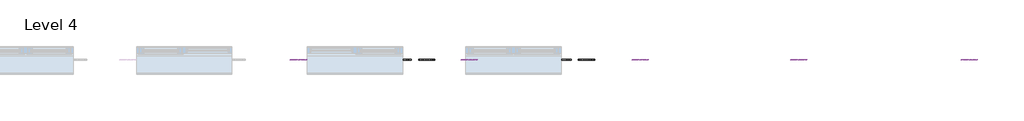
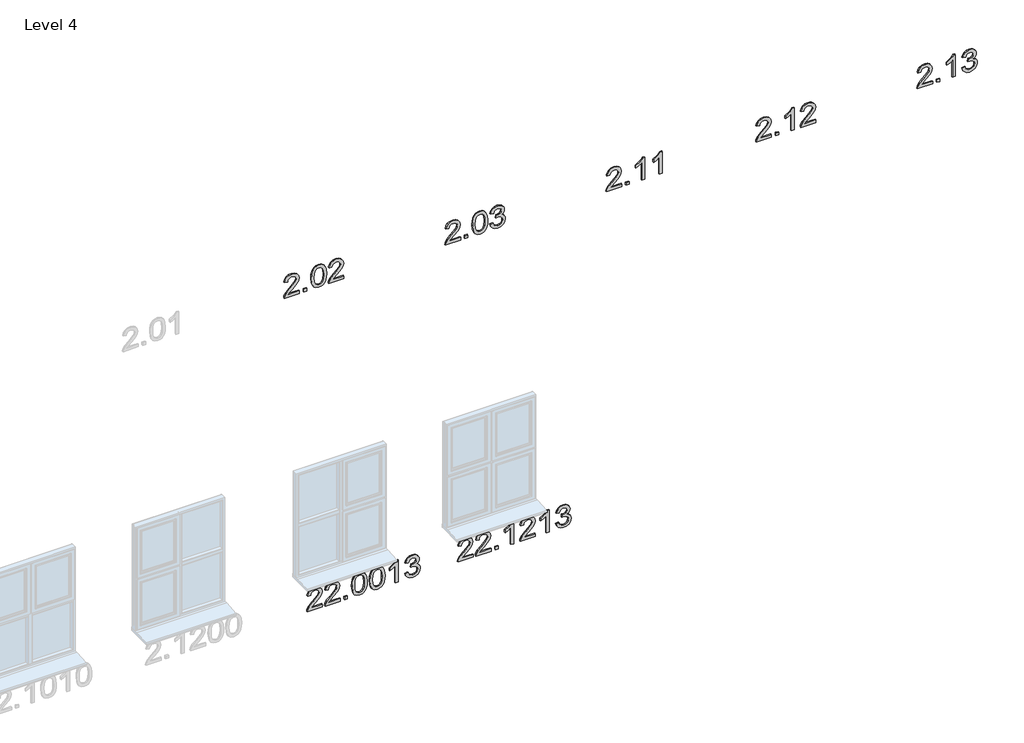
# One storey, part 2 of 2: 7 proxies.
"""IFC4 building model written with IfcOpenShell, lengths in millimetres."""

from ifc_helpers import new_model, si_unit, frame, origin, place, context, project, spatial, polyline, outline, extrude, element, save

model = new_model("IFC4")

# Units and contexts
model_context = context("Model", 3, world=origin())
ifc_project = project(units=[si_unit("LENGTHUNIT", "METRE", prefix="MILLI")], contexts=[model_context])

# Site, building, storey
site = spatial("IfcSite", under=ifc_project)
building = spatial("IfcBuilding", under=site)
storey = spatial("IfcBuildingStorey", under=building, Name="Level 4", Elevation=9000.0)

# Proxies
placement = place(None, origin())
element("IfcBuildingElementProxy", 1, Name="200mm Arial", ObjectType="200mm Arial", at=placement, inside=storey, context=model_context, shape_type="SweptSolid", body=[
    extrude(outline(polyline([(11979.7533372, -167119.8584647), (11979.7533372, -167218.4998903), (11992.5311052, -167207.1691249), (12016.6886895, -167178.2781255), (12051.0979188, -167142.2992664), (12075.721487, -167127.4613593), (12099.5357149, -167122.9977244), (12121.4369563, -167127.1363968), (12139.4631741, -167139.5524142), (12151.5297035, -167159.068554), (12155.55188, -167184.507594), (12151.9343737, -167209.7626929), (12141.0818548, -167229.315621), (12123.3376799, -167242.4796651), (12099.0452055, -167248.5681121), (12095.9059458, -167223.4540345), (12110.3391828, -167220.7378391), (12121.265278, -167212.8835585), (12128.1446714, -167200.7127959), (12130.4378025, -167185.0471542), (12128.0894891, -167170.1295393), (12121.0445488, -167158.3389214), (12110.5905688, -167150.6685818), (12098.0151359, -167148.1118019), (12083.9865692, -167150.821866), (12069.565595, -167158.952058), (12027.7251494, -167202.3130825), (11998.6134208, -167233.7547304), (11971.9542389, -167249.0095705), (11954.6392597, -167251.7073718), (11954.6392597, -167119.8584647), (11979.7533372, -167119.8584647)])), frame((0.0, 24202.6264647, 0.0), z_axis=(0.0, 1.0, 0.0), x_axis=(0.0, 0.0, 1.0)), (0.0, 0.0, 1.0), 10.0),
    extrude(outline(polyline([(-167057.0732708, 24202.6264647), (-167082.1873484, 24202.6264647), (-167082.1873484, 24212.6264647), (-167057.0732708, 24212.6264647), (-167057.0732708, 24202.6264647)])), frame((0.0, 0.0, 11954.6392597), z_axis=(0.0, 0.0, 1.0), x_axis=(1.0, 0.0, 0.0)), (0.0, 0.0, 1.0), 25.1140775),
    extrude(outline(polyline([(12053.4768891, -167016.2628949), (12004.6098974, -167011.2596997), (11985.7590108, -167005.0057058), (11970.6298637, -166996.2501143), (11956.2824659, -166976.4335375), (11951.5, -166950.3384413), (11954.2529836, -166930.0374865), (11962.5119344, -166913.5747673), (11976.3688229, -166900.8399189), (11995.9156196, -166891.7225768), (12021.5018123, -166886.241135), (12053.4768891, -166884.4139878), (12100.6884118, -166888.9757245), (12130.413277, -166900.7479484), (12141.1738253, -166909.4177007), (12149.0771569, -166921.0059836), (12153.9331992, -166934.8628721), (12155.55188, -166950.3384413), (12152.8172905, -166970.5290315), (12144.613522, -166986.9549626), (12130.8118158, -166999.7082051), (12111.2834132, -167008.8807295), (12085.6359068, -167014.4173535), (12053.4768891, -167016.2628949)]), holes=[polyline([(12053.52594, -166991.1488173), (12092.5214315, -166988.1076595), (12116.9978469, -166978.984186), (12127.0778136, -166966.3535708), (12130.4378025, -166950.6327469), (12126.6240924, -166934.0290062), (12115.1829624, -166920.9078817), (12092.1412868, -166912.3730194), (12053.52594, -166909.5280653), (12014.0828587, -166912.4711213), (11991.20673, -166921.3002892), (11980.2622407, -166934.4459391), (11976.6140775, -166950.3384413), (11980.2499779, -166966.2309435), (11991.1576791, -166979.3765935), (12014.0215451, -166988.2057614), (12053.52594, -166991.1488173)])]), frame((0.0, 24202.6264647, 0.0), z_axis=(0.0, 1.0, 0.0), x_axis=(0.0, 0.0, 1.0)), (0.0, 0.0, 1.0), 10.0),
    extrude(outline(polyline([(11979.7533372, -166733.7295226), (11979.7533372, -166832.3709482), (11992.5311052, -166821.0401827), (12016.6886895, -166792.1491834), (12051.0979188, -166756.1703243), (12075.721487, -166741.3324171), (12099.5357149, -166736.8687822), (12121.4369563, -166741.0074547), (12139.4631741, -166753.423472), (12151.5297035, -166772.9396119), (12155.55188, -166798.3786518), (12151.9343737, -166823.6337508), (12141.0818548, -166843.1866789), (12123.3376799, -166856.3507229), (12099.0452055, -166862.4391699), (12095.9059458, -166837.3250924), (12110.3391828, -166834.608897), (12121.265278, -166826.7546164), (12128.1446714, -166814.5838537), (12130.4378025, -166798.9182121), (12128.0894891, -166784.0005972), (12121.0445488, -166772.2099793), (12110.5905688, -166764.5396397), (12098.0151359, -166761.9828598), (12083.9865692, -166764.6929238), (12069.565595, -166772.8231159), (12027.7251494, -166816.1841404), (11998.6134208, -166847.6257883), (11971.9542389, -166862.8806283), (11954.6392597, -166865.5784296), (11954.6392597, -166733.7295226), (11979.7533372, -166733.7295226)])), frame((0.0, 24202.6264647, 0.0), z_axis=(0.0, 1.0, 0.0), x_axis=(0.0, 0.0, 1.0)), (0.0, 0.0, 1.0), 10.0),
])
element("IfcBuildingElementProxy", 2, Name="200mm Arial", ObjectType="200mm Arial", at=placement, inside=storey, context=model_context, shape_type="SweptSolid", body=[
    extrude(outline(polyline([(11979.7533372, -165719.8584647), (11979.7533372, -165818.4998903), (11992.5311052, -165807.1691249), (12016.6886895, -165778.2781255), (12051.0979188, -165742.2992664), (12075.721487, -165727.4613593), (12099.5357149, -165722.9977244), (12121.4369563, -165727.1363968), (12139.4631741, -165739.5524142), (12151.5297035, -165759.068554), (12155.55188, -165784.507594), (12151.9343737, -165809.7626929), (12141.0818548, -165829.315621), (12123.3376799, -165842.4796651), (12099.0452055, -165848.5681121), (12095.9059458, -165823.4540345), (12110.3391828, -165820.7378391), (12121.265278, -165812.8835585), (12128.1446714, -165800.7127959), (12130.4378025, -165785.0471542), (12128.0894891, -165770.1295393), (12121.0445488, -165758.3389214), (12110.5905688, -165750.6685818), (12098.0151359, -165748.1118019), (12083.9865692, -165750.821866), (12069.565595, -165758.952058), (12027.7251494, -165802.3130825), (11998.6134208, -165833.7547304), (11971.9542389, -165849.0095705), (11954.6392597, -165851.7073718), (11954.6392597, -165719.8584647), (11979.7533372, -165719.8584647)])), frame((0.0, 24202.6264647, 0.0), z_axis=(0.0, 1.0, 0.0), x_axis=(0.0, 0.0, 1.0)), (0.0, 0.0, 1.0), 10.0),
    extrude(outline(polyline([(-165657.0732708, 24202.6264647), (-165682.1873484, 24202.6264647), (-165682.1873484, 24212.6264647), (-165657.0732708, 24212.6264647), (-165657.0732708, 24202.6264647)])), frame((0.0, 0.0, 11954.6392597), z_axis=(0.0, 0.0, 1.0), x_axis=(1.0, 0.0, 0.0)), (0.0, 0.0, 1.0), 25.1140775),
    extrude(outline(polyline([(12053.4768891, -165616.2628949), (12004.6098974, -165611.2596997), (11985.7590108, -165605.0057058), (11970.6298637, -165596.2501143), (11956.2824659, -165576.4335375), (11951.5, -165550.3384413), (11954.2529836, -165530.0374865), (11962.5119344, -165513.5747673), (11976.3688229, -165500.8399189), (11995.9156196, -165491.7225768), (12021.5018123, -165486.241135), (12053.4768891, -165484.4139878), (12100.6884118, -165488.9757245), (12130.413277, -165500.7479484), (12141.1738253, -165509.4177007), (12149.0771569, -165521.0059836), (12153.9331992, -165534.8628721), (12155.55188, -165550.3384413), (12152.8172905, -165570.5290315), (12144.613522, -165586.9549626), (12130.8118158, -165599.7082051), (12111.2834132, -165608.8807295), (12085.6359068, -165614.4173535), (12053.4768891, -165616.2628949)]), holes=[polyline([(12053.52594, -165591.1488173), (12092.5214315, -165588.1076595), (12116.9978469, -165578.984186), (12127.0778136, -165566.3535708), (12130.4378025, -165550.6327469), (12126.6240924, -165534.0290062), (12115.1829624, -165520.9078817), (12092.1412868, -165512.3730194), (12053.52594, -165509.5280653), (12014.0828587, -165512.4711213), (11991.20673, -165521.3002892), (11980.2622407, -165534.4459391), (11976.6140775, -165550.3384413), (11980.2499779, -165566.2309435), (11991.1576791, -165579.3765935), (12014.0215451, -165588.2057614), (12053.52594, -165591.1488173)])]), frame((0.0, 24202.6264647, 0.0), z_axis=(0.0, 1.0, 0.0), x_axis=(0.0, 0.0, 1.0)), (0.0, 0.0, 1.0), 10.0),
    extrude(outline(polyline([(12008.0066745, -165462.4391699), (11985.3083554, -165456.2219642), (11967.2453494, -165442.4754403), (11955.4363373, -165422.7079145), (11951.5, -165398.4277028), (11956.1107877, -165371.5845799), (11969.9431507, -165349.8182285), (11990.3973896, -165335.3972543), (12014.873805, -165330.5902629), (12032.8509719, -165332.9937586), (12047.5417262, -165340.2042457), (12058.3574569, -165351.8538422), (12064.7095526, -165367.5746661), (12071.956828, -165355.6062385), (12081.3378188, -165346.9732744), (12092.3497532, -165341.7493501), (12104.4898591, -165340.0080419), (12117.5190131, -165341.8413205), (12129.8246658, -165347.3411564), (12140.5055064, -165356.3052143), (12148.6602239, -165368.5311593), (12153.828966, -165383.0318413), (12155.55188, -165398.8201102), (12152.057001, -165420.7458771), (12141.5723642, -165438.7475694), (12124.7356315, -165451.9054821), (12102.1844652, -165459.2999102), (12099.0452055, -165434.1858327), (12112.7794667, -165429.7344606), (12122.5896532, -165421.8740486), (12128.4757651, -165411.1073689), (12130.4378025, -165397.9371934), (12128.4941592, -165384.7915435), (12122.6632296, -165374.2946439), (12113.8647186, -165367.4152506), (12103.0183311, -165365.1221195), (12089.9953085, -165368.2859046), (12080.8473095, -165377.7772601), (12075.4394442, -165391.2294784), (12073.6368224, -165406.275852), (12073.931128, -165410.2980285), (12048.8170505, -165413.0939316), (12051.5639027, -165395.4846468), (12048.9948601, -165379.6902465), (12041.2877323, -165366.937004), (12029.6565299, -165358.5125063), (12015.3152634, -165355.7043404), (12000.2075762, -165358.5370318), (11987.7486393, -165367.0351059), (11979.397718, -165380.3279086), (11976.6140775, -165397.544786), (11978.6374285, -165412.2171462), (11984.7074814, -165423.4682039), (11995.3637966, -165431.7026292), (12011.1459342, -165437.3250924), (12008.0066745, -165462.4391699)])), frame((0.0, 24202.6264647, 0.0), z_axis=(0.0, 1.0, 0.0), x_axis=(0.0, 0.0, 1.0)), (0.0, 0.0, 1.0), 10.0),
])
element("IfcBuildingElementProxy", 3, Name="200mm Arial", ObjectType="200mm Arial", at=placement, inside=storey, context=model_context, shape_type="SweptSolid", body=[
    extrude(outline(polyline([(11979.7533372, -164319.8584647), (11979.7533372, -164418.4998903), (11992.5311052, -164407.1691249), (12016.6886895, -164378.2781255), (12051.0979188, -164342.2992664), (12075.721487, -164327.4613593), (12099.5357149, -164322.9977244), (12121.4369563, -164327.1363968), (12139.4631741, -164339.5524142), (12151.5297035, -164359.068554), (12155.55188, -164384.507594), (12151.9343737, -164409.7626929), (12141.0818548, -164429.315621), (12123.3376799, -164442.4796651), (12099.0452055, -164448.5681121), (12095.9059458, -164423.4540345), (12110.3391828, -164420.7378391), (12121.265278, -164412.8835585), (12128.1446714, -164400.7127959), (12130.4378025, -164385.0471542), (12128.0894891, -164370.1295393), (12121.0445488, -164358.3389214), (12110.5905688, -164350.6685818), (12098.0151359, -164348.1118019), (12083.9865692, -164350.821866), (12069.565595, -164358.952058), (12027.7251494, -164402.3130825), (11998.6134208, -164433.7547304), (11971.9542389, -164449.0095705), (11954.6392597, -164451.7073718), (11954.6392597, -164319.8584647), (11979.7533372, -164319.8584647)])), frame((0.0, 24202.6264647, 0.0), z_axis=(0.0, 1.0, 0.0), x_axis=(0.0, 0.0, 1.0)), (0.0, 0.0, 1.0), 10.0),
    extrude(outline(polyline([(-164257.0732708, 24202.6264647), (-164282.1873484, 24202.6264647), (-164282.1873484, 24212.6264647), (-164257.0732708, 24212.6264647), (-164257.0732708, 24202.6264647)])), frame((0.0, 0.0, 11954.6392597), z_axis=(0.0, 0.0, 1.0), x_axis=(1.0, 0.0, 0.0)), (0.0, 0.0, 1.0), 25.1140775),
    extrude(outline(polyline([(11954.6392597, -164122.0851041), (12155.55188, -164122.0851041), (12155.55188, -164138.2719119), (12142.3939673, -164147.1439993), (12128.8191217, -164160.6146117), (12105.3237249, -164197.4273367), (12081.5830735, -164197.4273367), (12094.2627396, -164170.988884), (12111.2098368, -164147.1991816), (11954.6392597, -164147.1991816), (11954.6392597, -164122.0851041)])), frame((0.0, 24202.6264647, 0.0), z_axis=(0.0, 1.0, 0.0), x_axis=(0.0, 0.0, 1.0)), (0.0, 0.0, 1.0), 10.0),
    extrude(outline(polyline([(11954.6392597, -163968.2613792), (12155.55188, -163968.2613792), (12155.55188, -163984.448187), (12142.3939673, -163993.3202744), (12128.8191217, -164006.7908868), (12105.3237249, -164043.6036118), (12081.5830735, -164043.6036118), (12094.2627396, -164017.1651591), (12111.2098368, -163993.3754567), (11954.6392597, -163993.3754567), (11954.6392597, -163968.2613792)])), frame((0.0, 24202.6264647, 0.0), z_axis=(0.0, 1.0, 0.0), x_axis=(0.0, 0.0, 1.0)), (0.0, 0.0, 1.0), 10.0),
])
element("IfcBuildingElementProxy", 4, Name="200mm Arial", ObjectType="200mm Arial", at=placement, inside=storey, context=model_context, shape_type="SweptSolid", body=[
    extrude(outline(polyline([(11979.7533372, -163019.8584647), (11979.7533372, -163118.4998903), (11992.5311052, -163107.1691249), (12016.6886895, -163078.2781255), (12051.0979188, -163042.2992664), (12075.721487, -163027.4613593), (12099.5357149, -163022.9977244), (12121.4369563, -163027.1363968), (12139.4631741, -163039.5524142), (12151.5297035, -163059.068554), (12155.55188, -163084.507594), (12151.9343737, -163109.7626929), (12141.0818548, -163129.315621), (12123.3376799, -163142.4796651), (12099.0452055, -163148.5681121), (12095.9059458, -163123.4540345), (12110.3391828, -163120.7378391), (12121.265278, -163112.8835585), (12128.1446714, -163100.7127959), (12130.4378025, -163085.0471542), (12128.0894891, -163070.1295393), (12121.0445488, -163058.3389214), (12110.5905688, -163050.6685818), (12098.0151359, -163048.1118019), (12083.9865692, -163050.821866), (12069.565595, -163058.952058), (12027.7251494, -163102.3130825), (11998.6134208, -163133.7547304), (11971.9542389, -163149.0095705), (11954.6392597, -163151.7073718), (11954.6392597, -163019.8584647), (11979.7533372, -163019.8584647)])), frame((0.0, 24202.6264647, 0.0), z_axis=(0.0, 1.0, 0.0), x_axis=(0.0, 0.0, 1.0)), (0.0, 0.0, 1.0), 10.0),
    extrude(outline(polyline([(-162957.0732708, 24202.6264647), (-162982.1873484, 24202.6264647), (-162982.1873484, 24212.6264647), (-162957.0732708, 24212.6264647), (-162957.0732708, 24202.6264647)])), frame((0.0, 0.0, 11954.6392597), z_axis=(0.0, 0.0, 1.0), x_axis=(1.0, 0.0, 0.0)), (0.0, 0.0, 1.0), 25.1140775),
    extrude(outline(polyline([(11954.6392597, -162822.0851041), (12155.55188, -162822.0851041), (12155.55188, -162838.2719119), (12142.3939673, -162847.1439993), (12128.8191217, -162860.6146117), (12105.3237249, -162897.4273367), (12081.5830735, -162897.4273367), (12094.2627396, -162870.988884), (12111.2098368, -162847.1991816), (11954.6392597, -162847.1991816), (11954.6392597, -162822.0851041)])), frame((0.0, 24202.6264647, 0.0), z_axis=(0.0, 1.0, 0.0), x_axis=(0.0, 0.0, 1.0)), (0.0, 0.0, 1.0), 10.0),
    extrude(outline(polyline([(11979.7533372, -162633.7295226), (11979.7533372, -162732.3709482), (11992.5311052, -162721.0401827), (12016.6886895, -162692.1491834), (12051.0979188, -162656.1703243), (12075.721487, -162641.3324171), (12099.5357149, -162636.8687822), (12121.4369563, -162641.0074547), (12139.4631741, -162653.423472), (12151.5297035, -162672.9396119), (12155.55188, -162698.3786518), (12151.9343737, -162723.6337508), (12141.0818548, -162743.1866789), (12123.3376799, -162756.3507229), (12099.0452055, -162762.4391699), (12095.9059458, -162737.3250924), (12110.3391828, -162734.608897), (12121.265278, -162726.7546164), (12128.1446714, -162714.5838537), (12130.4378025, -162698.9182121), (12128.0894891, -162684.0005972), (12121.0445488, -162672.2099793), (12110.5905688, -162664.5396397), (12098.0151359, -162661.9828598), (12083.9865692, -162664.6929238), (12069.565595, -162672.8231159), (12027.7251494, -162716.1841404), (11998.6134208, -162747.6257883), (11971.9542389, -162762.8806283), (11954.6392597, -162765.5784296), (11954.6392597, -162633.7295226), (11979.7533372, -162633.7295226)])), frame((0.0, 24202.6264647, 0.0), z_axis=(0.0, 1.0, 0.0), x_axis=(0.0, 0.0, 1.0)), (0.0, 0.0, 1.0), 10.0),
])
element("IfcBuildingElementProxy", 5, Name="200mm Arial", ObjectType="200mm Arial", at=placement, inside=storey, context=model_context, shape_type="SweptSolid", body=[
    extrude(outline(polyline([(11979.7533372, -161619.8584647), (11979.7533372, -161718.4998903), (11992.5311052, -161707.1691249), (12016.6886895, -161678.2781255), (12051.0979188, -161642.2992664), (12075.721487, -161627.4613593), (12099.5357149, -161622.9977244), (12121.4369563, -161627.1363968), (12139.4631741, -161639.5524142), (12151.5297035, -161659.068554), (12155.55188, -161684.507594), (12151.9343737, -161709.7626929), (12141.0818548, -161729.315621), (12123.3376799, -161742.4796651), (12099.0452055, -161748.5681121), (12095.9059458, -161723.4540345), (12110.3391828, -161720.7378391), (12121.265278, -161712.8835585), (12128.1446714, -161700.7127959), (12130.4378025, -161685.0471542), (12128.0894891, -161670.1295393), (12121.0445488, -161658.3389214), (12110.5905688, -161650.6685818), (12098.0151359, -161648.1118019), (12083.9865692, -161650.821866), (12069.565595, -161658.952058), (12027.7251494, -161702.3130825), (11998.6134208, -161733.7547304), (11971.9542389, -161749.0095705), (11954.6392597, -161751.7073718), (11954.6392597, -161619.8584647), (11979.7533372, -161619.8584647)])), frame((0.0, 24202.6264647, 0.0), z_axis=(0.0, 1.0, 0.0), x_axis=(0.0, 0.0, 1.0)), (0.0, 0.0, 1.0), 10.0),
    extrude(outline(polyline([(-161557.0732708, 24202.6264647), (-161582.1873484, 24202.6264647), (-161582.1873484, 24212.6264647), (-161557.0732708, 24212.6264647), (-161557.0732708, 24202.6264647)])), frame((0.0, 0.0, 11954.6392597), z_axis=(0.0, 0.0, 1.0), x_axis=(1.0, 0.0, 0.0)), (0.0, 0.0, 1.0), 25.1140775),
    extrude(outline(polyline([(11954.6392597, -161422.0851041), (12155.55188, -161422.0851041), (12155.55188, -161438.2719119), (12142.3939673, -161447.1439993), (12128.8191217, -161460.6146117), (12105.3237249, -161497.4273367), (12081.5830735, -161497.4273367), (12094.2627396, -161470.988884), (12111.2098368, -161447.1991816), (11954.6392597, -161447.1991816), (11954.6392597, -161422.0851041)])), frame((0.0, 24202.6264647, 0.0), z_axis=(0.0, 1.0, 0.0), x_axis=(0.0, 0.0, 1.0)), (0.0, 0.0, 1.0), 10.0),
    extrude(outline(polyline([(12008.0066745, -161362.4391699), (11985.3083554, -161356.2219642), (11967.2453494, -161342.4754403), (11955.4363373, -161322.7079145), (11951.5, -161298.4277028), (11956.1107877, -161271.5845799), (11969.9431507, -161249.8182285), (11990.3973896, -161235.3972543), (12014.873805, -161230.5902629), (12032.8509719, -161232.9937586), (12047.5417262, -161240.2042457), (12058.3574569, -161251.8538422), (12064.7095526, -161267.5746661), (12071.956828, -161255.6062385), (12081.3378188, -161246.9732744), (12092.3497532, -161241.7493501), (12104.4898591, -161240.0080419), (12117.5190131, -161241.8413205), (12129.8246658, -161247.3411564), (12140.5055064, -161256.3052143), (12148.6602239, -161268.5311593), (12153.828966, -161283.0318413), (12155.55188, -161298.8201102), (12152.057001, -161320.7458771), (12141.5723642, -161338.7475694), (12124.7356315, -161351.9054821), (12102.1844652, -161359.2999102), (12099.0452055, -161334.1858327), (12112.7794667, -161329.7344606), (12122.5896532, -161321.8740486), (12128.4757651, -161311.1073689), (12130.4378025, -161297.9371934), (12128.4941592, -161284.7915435), (12122.6632296, -161274.2946439), (12113.8647186, -161267.4152506), (12103.0183311, -161265.1221195), (12089.9953085, -161268.2859046), (12080.8473095, -161277.7772601), (12075.4394442, -161291.2294784), (12073.6368224, -161306.275852), (12073.931128, -161310.2980285), (12048.8170505, -161313.0939316), (12051.5639027, -161295.4846468), (12048.9948601, -161279.6902465), (12041.2877323, -161266.937004), (12029.6565299, -161258.5125063), (12015.3152634, -161255.7043404), (12000.2075762, -161258.5370318), (11987.7486393, -161267.0351059), (11979.397718, -161280.3279086), (11976.6140775, -161297.544786), (11978.6374285, -161312.2171462), (11984.7074814, -161323.4682039), (11995.3637966, -161331.7026292), (12011.1459342, -161337.3250924), (12008.0066745, -161362.4391699)])), frame((0.0, 24202.6264647, 0.0), z_axis=(0.0, 1.0, 0.0), x_axis=(0.0, 0.0, 1.0)), (0.0, 0.0, 1.0), 10.0),
])
element("IfcBuildingElementProxy", 6, Name="200mm Arial", ObjectType="200mm Arial", at=placement, inside=storey, context=model_context, shape_type="SweptSolid", body=[
    extrude(outline(polyline([(9028.2533372, -166919.8584647), (9028.2533372, -167018.4998903), (9041.0311052, -167007.1691249), (9065.1886895, -166978.2781255), (9099.5979188, -166942.2992664), (9124.221487, -166927.4613593), (9148.0357149, -166922.9977244), (9169.9369563, -166927.1363968), (9187.9631741, -166939.5524142), (9200.0297035, -166959.068554), (9204.05188, -166984.507594), (9200.4343737, -167009.7626929), (9189.5818548, -167029.315621), (9171.8376799, -167042.4796651), (9147.5452055, -167048.5681121), (9144.4059458, -167023.4540345), (9158.8391828, -167020.7378391), (9169.765278, -167012.8835585), (9176.6446714, -167000.7127959), (9178.9378025, -166985.0471542), (9176.5894891, -166970.1295393), (9169.5445488, -166958.3389214), (9159.0905688, -166950.6685818), (9146.5151359, -166948.1118019), (9132.4865692, -166950.821866), (9118.065595, -166958.952058), (9076.2251494, -167002.3130825), (9047.1134208, -167033.7547304), (9020.4542389, -167049.0095705), (9003.1392597, -167051.7073718), (9003.1392597, -166919.8584647), (9028.2533372, -166919.8584647)])), frame((0.0, 24202.6264647, 0.0), z_axis=(0.0, 1.0, 0.0), x_axis=(0.0, 0.0, 1.0)), (0.0, 0.0, 1.0), 10.0),
    extrude(outline(polyline([(9028.2533372, -166766.0347398), (9028.2533372, -166864.6761654), (9041.0311052, -166853.3454), (9065.1886895, -166824.4544006), (9099.5979188, -166788.4755415), (9124.221487, -166773.6376343), (9148.0357149, -166769.1739995), (9169.9369563, -166773.3126719), (9187.9631741, -166785.7286893), (9200.0297035, -166805.2448291), (9204.05188, -166830.6838691), (9200.4343737, -166855.938968), (9189.5818548, -166875.4918961), (9171.8376799, -166888.6559401), (9147.5452055, -166894.7443872), (9144.4059458, -166869.6303096), (9158.8391828, -166866.9141142), (9169.765278, -166859.0598336), (9176.6446714, -166846.8890709), (9178.9378025, -166831.2234293), (9176.5894891, -166816.3058144), (9169.5445488, -166804.5151965), (9159.0905688, -166796.8448569), (9146.5151359, -166794.288077), (9132.4865692, -166796.998141), (9118.065595, -166805.1283331), (9076.2251494, -166848.4893576), (9047.1134208, -166879.9310055), (9020.4542389, -166895.1858455), (9003.1392597, -166897.8836468), (9003.1392597, -166766.0347398), (9028.2533372, -166766.0347398)])), frame((0.0, 24202.6264647, 0.0), z_axis=(0.0, 1.0, 0.0), x_axis=(0.0, 0.0, 1.0)), (0.0, 0.0, 1.0), 10.0),
    extrude(outline(polyline([(-166703.2495459, 24202.6264647), (-166728.3636235, 24202.6264647), (-166728.3636235, 24212.6264647), (-166703.2495459, 24212.6264647), (-166703.2495459, 24202.6264647)])), frame((0.0, 0.0, 9003.1392597), z_axis=(0.0, 0.0, 1.0), x_axis=(1.0, 0.0, 0.0)), (0.0, 0.0, 1.0), 25.1140775),
    extrude(outline(polyline([(9101.9768891, -166662.4391699), (9053.1098974, -166657.4359748), (9034.2590108, -166651.1819809), (9019.1298637, -166642.4263894), (9004.7824659, -166622.6098126), (9000.0, -166596.5147164), (9002.7529836, -166576.2137616), (9011.0119344, -166559.7510423), (9024.8688229, -166547.0161939), (9044.4156196, -166537.8988518), (9070.0018123, -166532.4174101), (9101.9768891, -166530.5902629), (9149.1884118, -166535.1519996), (9178.913277, -166546.9242234), (9189.6738253, -166555.5939758), (9197.5771569, -166567.1822587), (9202.4331992, -166581.0391471), (9204.05188, -166596.5147164), (9201.3172905, -166616.7053066), (9193.113522, -166633.1312377), (9179.3118158, -166645.8844802), (9159.7834132, -166655.0570046), (9134.1359068, -166660.5936286), (9101.9768891, -166662.4391699)]), holes=[polyline([(9102.02594, -166637.3250924), (9141.0214315, -166634.2839346), (9165.4978469, -166625.1604611), (9175.5778136, -166612.5298459), (9178.9378025, -166596.809022), (9175.1240924, -166580.2052813), (9163.6829624, -166567.0841568), (9140.6412868, -166558.5492945), (9102.02594, -166555.7043404), (9062.5828587, -166558.6473964), (9039.70673, -166567.4765642), (9028.7622407, -166580.6222142), (9025.1140775, -166596.5147164), (9028.7499779, -166612.4072186), (9039.6576791, -166625.5528686), (9062.5215451, -166634.3820364), (9102.02594, -166637.3250924)])]), frame((0.0, 24202.6264647, 0.0), z_axis=(0.0, 1.0, 0.0), x_axis=(0.0, 0.0, 1.0)), (0.0, 0.0, 1.0), 10.0),
    extrude(outline(polyline([(9101.9768891, -166508.615445), (9053.1098974, -166503.6122499), (9034.2590108, -166497.358256), (9019.1298637, -166488.6026645), (9004.7824659, -166468.7860877), (9000.0, -166442.6909915), (9002.7529836, -166422.3900367), (9011.0119344, -166405.9273174), (9024.8688229, -166393.192469), (9044.4156196, -166384.0751269), (9070.0018123, -166378.5936852), (9101.9768891, -166376.7665379), (9149.1884118, -166381.3282747), (9178.913277, -166393.1004985), (9189.6738253, -166401.7702509), (9197.5771569, -166413.3585337), (9202.4331992, -166427.2154222), (9204.05188, -166442.6909915), (9201.3172905, -166462.8815817), (9193.113522, -166479.3075127), (9179.3118158, -166492.0607552), (9159.7834132, -166501.2332796), (9134.1359068, -166506.7699037), (9101.9768891, -166508.615445)]), holes=[polyline([(9102.02594, -166483.5013675), (9141.0214315, -166480.4602097), (9165.4978469, -166471.3367362), (9175.5778136, -166458.706121), (9178.9378025, -166442.9852971), (9175.1240924, -166426.3815564), (9163.6829624, -166413.2604319), (9140.6412868, -166404.7255696), (9102.02594, -166401.8806155), (9062.5828587, -166404.8236714), (9039.70673, -166413.6528393), (9028.7622407, -166426.7984893), (9025.1140775, -166442.6909915), (9028.7499779, -166458.5834937), (9039.6576791, -166471.7291436), (9062.5215451, -166480.5583115), (9102.02594, -166483.5013675)])]), frame((0.0, 24202.6264647, 0.0), z_axis=(0.0, 1.0, 0.0), x_axis=(0.0, 0.0, 1.0)), (0.0, 0.0, 1.0), 10.0),
    extrude(outline(polyline([(9003.1392597, -166260.6139293), (9204.05188, -166260.6139293), (9204.05188, -166276.8007371), (9190.8939673, -166285.6728246), (9177.3191217, -166299.143437), (9153.8237249, -166335.9561619), (9130.0830735, -166335.9561619), (9142.7627396, -166309.5177092), (9159.7098368, -166285.7280069), (9003.1392597, -166285.7280069), (9003.1392597, -166260.6139293)])), frame((0.0, 24202.6264647, 0.0), z_axis=(0.0, 1.0, 0.0), x_axis=(0.0, 0.0, 1.0)), (0.0, 0.0, 1.0), 10.0),
    extrude(outline(polyline([(9056.5066745, -166200.9679952), (9033.8083554, -166194.7507895), (9015.7453494, -166181.0042656), (9003.9363373, -166161.2367397), (9000.0, -166136.956528), (9004.6107877, -166110.1134051), (9018.4431507, -166088.3470537), (9038.8973896, -166073.9260795), (9063.373805, -166069.1190881), (9081.3509719, -166071.5225838), (9096.0417262, -166078.7330709), (9106.8574569, -166090.3826674), (9113.2095526, -166106.1034914), (9120.456828, -166094.1350638), (9129.8378188, -166085.5020996), (9140.8497532, -166080.2781753), (9152.9898591, -166078.5368672), (9166.0190131, -166080.3701458), (9178.3246658, -166085.8699816), (9189.0055064, -166094.8340396), (9197.1602239, -166107.0599845), (9202.328966, -166121.5606665), (9204.05188, -166137.3489355), (9200.557001, -166159.2747024), (9190.0723642, -166177.2763947), (9173.2356315, -166190.4343074), (9150.6844652, -166197.8287355), (9147.5452055, -166172.714658), (9161.2794667, -166168.2632858), (9171.0896532, -166160.4028738), (9176.9757651, -166149.6361941), (9178.9378025, -166136.4660187), (9176.9941592, -166123.3203687), (9171.1632296, -166112.8234691), (9162.3647186, -166105.9440758), (9151.5183311, -166103.6509447), (9138.4953085, -166106.8147299), (9129.3473095, -166116.3060854), (9123.9394442, -166129.7583037), (9122.1368224, -166144.8046773), (9122.431128, -166148.8268537), (9097.3170505, -166151.6227569), (9100.0639027, -166134.0134721), (9097.4948601, -166118.2190717), (9089.7877323, -166105.4658292), (9078.1565299, -166097.0413315), (9063.8152634, -166094.2331657), (9048.7075762, -166097.065857), (9036.2486393, -166105.5639311), (9027.897718, -166118.8567339), (9025.1140775, -166136.0736112), (9027.1374285, -166150.7459715), (9033.2074814, -166161.9970292), (9043.8637966, -166170.2314545), (9059.6459342, -166175.8539176), (9056.5066745, -166200.9679952)])), frame((0.0, 24202.6264647, 0.0), z_axis=(0.0, 1.0, 0.0), x_axis=(0.0, 0.0, 1.0)), (0.0, 0.0, 1.0), 10.0),
])
element("IfcBuildingElementProxy", 7, Name="200mm Arial", ObjectType="200mm Arial", at=placement, inside=storey, context=model_context, shape_type="SweptSolid", body=[
    extrude(outline(polyline([(9028.2533372, -165609.8584647), (9028.2533372, -165708.4998903), (9041.0311052, -165697.1691249), (9065.1886895, -165668.2781255), (9099.5979188, -165632.2992664), (9124.221487, -165617.4613593), (9148.0357149, -165612.9977244), (9169.9369563, -165617.1363968), (9187.9631741, -165629.5524142), (9200.0297035, -165649.068554), (9204.05188, -165674.507594), (9200.4343737, -165699.7626929), (9189.5818548, -165719.315621), (9171.8376799, -165732.4796651), (9147.5452055, -165738.5681121), (9144.4059458, -165713.4540345), (9158.8391828, -165710.7378391), (9169.765278, -165702.8835585), (9176.6446714, -165690.7127959), (9178.9378025, -165675.0471542), (9176.5894891, -165660.1295393), (9169.5445488, -165648.3389214), (9159.0905688, -165640.6685818), (9146.5151359, -165638.1118019), (9132.4865692, -165640.821866), (9118.065595, -165648.952058), (9076.2251494, -165692.3130825), (9047.1134208, -165723.7547304), (9020.4542389, -165739.0095705), (9003.1392597, -165741.7073718), (9003.1392597, -165609.8584647), (9028.2533372, -165609.8584647)])), frame((0.0, 24202.6264647, 0.0), z_axis=(0.0, 1.0, 0.0), x_axis=(0.0, 0.0, 1.0)), (0.0, 0.0, 1.0), 10.0),
    extrude(outline(polyline([(9028.2533372, -165456.0347398), (9028.2533372, -165554.6761654), (9041.0311052, -165543.3454), (9065.1886895, -165514.4544006), (9099.5979188, -165478.4755415), (9124.221487, -165463.6376343), (9148.0357149, -165459.1739995), (9169.9369563, -165463.3126719), (9187.9631741, -165475.7286893), (9200.0297035, -165495.2448291), (9204.05188, -165520.6838691), (9200.4343737, -165545.938968), (9189.5818548, -165565.4918961), (9171.8376799, -165578.6559401), (9147.5452055, -165584.7443872), (9144.4059458, -165559.6303096), (9158.8391828, -165556.9141142), (9169.765278, -165549.0598336), (9176.6446714, -165536.8890709), (9178.9378025, -165521.2234293), (9176.5894891, -165506.3058144), (9169.5445488, -165494.5151965), (9159.0905688, -165486.8448569), (9146.5151359, -165484.288077), (9132.4865692, -165486.998141), (9118.065595, -165495.1283331), (9076.2251494, -165538.4893576), (9047.1134208, -165569.9310055), (9020.4542389, -165585.1858455), (9003.1392597, -165587.8836468), (9003.1392597, -165456.0347398), (9028.2533372, -165456.0347398)])), frame((0.0, 24202.6264647, 0.0), z_axis=(0.0, 1.0, 0.0), x_axis=(0.0, 0.0, 1.0)), (0.0, 0.0, 1.0), 10.0),
    extrude(outline(polyline([(-165393.2495459, 24202.6264647), (-165418.3636235, 24202.6264647), (-165418.3636235, 24212.6264647), (-165393.2495459, 24212.6264647), (-165393.2495459, 24202.6264647)])), frame((0.0, 0.0, 9003.1392597), z_axis=(0.0, 0.0, 1.0), x_axis=(1.0, 0.0, 0.0)), (0.0, 0.0, 1.0), 25.1140775),
    extrude(outline(polyline([(9003.1392597, -165258.2613792), (9204.05188, -165258.2613792), (9204.05188, -165274.448187), (9190.8939673, -165283.3202744), (9177.3191217, -165296.7908868), (9153.8237249, -165333.6036118), (9130.0830735, -165333.6036118), (9142.7627396, -165307.1651591), (9159.7098368, -165283.3754567), (9003.1392597, -165283.3754567), (9003.1392597, -165258.2613792)])), frame((0.0, 24202.6264647, 0.0), z_axis=(0.0, 1.0, 0.0), x_axis=(0.0, 0.0, 1.0)), (0.0, 0.0, 1.0), 10.0),
    extrude(outline(polyline([(9028.2533372, -165069.9057976), (9028.2533372, -165168.5472233), (9041.0311052, -165157.2164578), (9065.1886895, -165128.3254585), (9099.5979188, -165092.3465993), (9124.221487, -165077.5086922), (9148.0357149, -165073.0450573), (9169.9369563, -165077.1837298), (9187.9631741, -165089.5997471), (9200.0297035, -165109.115887), (9204.05188, -165134.5549269), (9200.4343737, -165159.8100259), (9189.5818548, -165179.3629539), (9171.8376799, -165192.526998), (9147.5452055, -165198.615445), (9144.4059458, -165173.5013675), (9158.8391828, -165170.7851721), (9169.765278, -165162.9308915), (9176.6446714, -165150.7601288), (9178.9378025, -165135.0944872), (9176.5894891, -165120.1768723), (9169.5445488, -165108.3862543), (9159.0905688, -165100.7159147), (9146.5151359, -165098.1591349), (9132.4865692, -165100.8691989), (9118.065595, -165108.999391), (9076.2251494, -165152.3604155), (9047.1134208, -165183.8020633), (9020.4542389, -165199.0569034), (9003.1392597, -165201.7547047), (9003.1392597, -165069.9057976), (9028.2533372, -165069.9057976)])), frame((0.0, 24202.6264647, 0.0), z_axis=(0.0, 1.0, 0.0), x_axis=(0.0, 0.0, 1.0)), (0.0, 0.0, 1.0), 10.0),
    extrude(outline(polyline([(9003.1392597, -164950.6139293), (9204.05188, -164950.6139293), (9204.05188, -164966.8007371), (9190.8939673, -164975.6728246), (9177.3191217, -164989.143437), (9153.8237249, -165025.9561619), (9130.0830735, -165025.9561619), (9142.7627396, -164999.5177092), (9159.7098368, -164975.7280069), (9003.1392597, -164975.7280069), (9003.1392597, -164950.6139293)])), frame((0.0, 24202.6264647, 0.0), z_axis=(0.0, 1.0, 0.0), x_axis=(0.0, 0.0, 1.0)), (0.0, 0.0, 1.0), 10.0),
    extrude(outline(polyline([(9056.5066745, -164890.9679952), (9033.8083554, -164884.7507895), (9015.7453494, -164871.0042656), (9003.9363373, -164851.2367397), (9000.0, -164826.956528), (9004.6107877, -164800.1134051), (9018.4431507, -164778.3470537), (9038.8973896, -164763.9260795), (9063.373805, -164759.1190881), (9081.3509719, -164761.5225838), (9096.0417262, -164768.7330709), (9106.8574569, -164780.3826674), (9113.2095526, -164796.1034914), (9120.456828, -164784.1350638), (9129.8378188, -164775.5020996), (9140.8497532, -164770.2781753), (9152.9898591, -164768.5368672), (9166.0190131, -164770.3701458), (9178.3246658, -164775.8699816), (9189.0055064, -164784.8340396), (9197.1602239, -164797.0599845), (9202.328966, -164811.5606665), (9204.05188, -164827.3489355), (9200.557001, -164849.2747024), (9190.0723642, -164867.2763947), (9173.2356315, -164880.4343074), (9150.6844652, -164887.8287355), (9147.5452055, -164862.714658), (9161.2794667, -164858.2632858), (9171.0896532, -164850.4028738), (9176.9757651, -164839.6361941), (9178.9378025, -164826.4660187), (9176.9941592, -164813.3203687), (9171.1632296, -164802.8234691), (9162.3647186, -164795.9440758), (9151.5183311, -164793.6509447), (9138.4953085, -164796.8147299), (9129.3473095, -164806.3060854), (9123.9394442, -164819.7583037), (9122.1368224, -164834.8046773), (9122.431128, -164838.8268537), (9097.3170505, -164841.6227569), (9100.0639027, -164824.0134721), (9097.4948601, -164808.2190717), (9089.7877323, -164795.4658292), (9078.1565299, -164787.0413315), (9063.8152634, -164784.2331657), (9048.7075762, -164787.065857), (9036.2486393, -164795.5639311), (9027.897718, -164808.8567339), (9025.1140775, -164826.0736112), (9027.1374285, -164840.7459715), (9033.2074814, -164851.9970292), (9043.8637966, -164860.2314545), (9059.6459342, -164865.8539176), (9056.5066745, -164890.9679952)])), frame((0.0, 24202.6264647, 0.0), z_axis=(0.0, 1.0, 0.0), x_axis=(0.0, 0.0, 1.0)), (0.0, 0.0, 1.0), 10.0),
])

save(model, "model.ifc")
